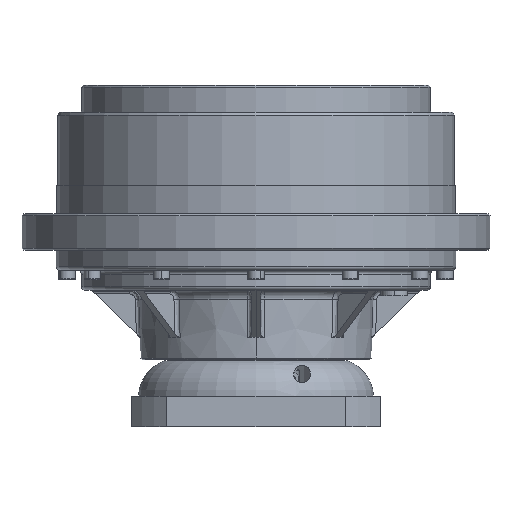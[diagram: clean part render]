
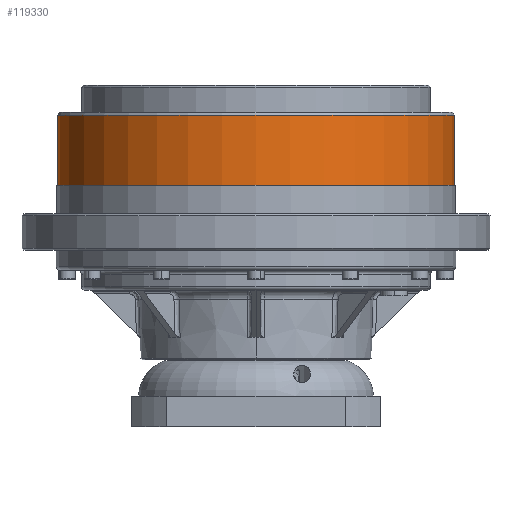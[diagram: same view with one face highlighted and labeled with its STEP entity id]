
A CAD part, front view. The second image highlights one B-rep face of the part: STEP entity #119330.
In plain terms, the highlighted cylindrical face has radius 103.5 mm (diameter 207 mm), a partial arc.
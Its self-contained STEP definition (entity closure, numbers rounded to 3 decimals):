
#6558 = VERTEX_POINT ( 'NONE', #124557 ) ;
#8247 = CARTESIAN_POINT ( 'NONE',  ( 103.5, 0., 70.5 ) ) ;
#8788 = DIRECTION ( 'NONE',  ( 0., 0., 1. ) ) ;
#9967 = ORIENTED_EDGE ( 'NONE', *, *, #30324, .T. ) ;
#11631 = EDGE_CURVE ( 'NONE', #106341, #70664, #23443, .T. ) ;
#14754 = LINE ( 'NONE', #124671, #123039 ) ;
#16553 = EDGE_CURVE ( 'NONE', #60191, #106341, #56821, .T. ) ;
#20468 = CARTESIAN_POINT ( 'NONE',  ( 0., 0., 34. ) ) ;
#23443 = CIRCLE ( 'NONE', #104758, 103.5 ) ;
#24052 = CARTESIAN_POINT ( 'NONE',  ( -103.5, 0., 34. ) ) ;
#30324 = EDGE_CURVE ( 'NONE', #6558, #70664, #14754, .T. ) ;
#32132 = FACE_OUTER_BOUND ( 'NONE', #84304, .T. ) ;
#34185 = AXIS2_PLACEMENT_3D ( 'NONE', #72515, #116949, #105962 ) ;
#42341 = CYLINDRICAL_SURFACE ( 'NONE', #70077, 103.5 ) ;
#56821 = LINE ( 'NONE', #24052, #79106 ) ;
#56837 = ORIENTED_EDGE ( 'NONE', *, *, #16553, .F. ) ;
#57737 = EDGE_CURVE ( 'NONE', #6558, #60191, #89950, .T. ) ;
#60191 = VERTEX_POINT ( 'NONE', #95721 ) ;
#70077 = AXIS2_PLACEMENT_3D ( 'NONE', #20468, #8788, #140613 ) ;
#70664 = VERTEX_POINT ( 'NONE', #8247 ) ;
#72515 = CARTESIAN_POINT ( 'NONE',  ( 0., 0., 34. ) ) ;
#79106 = VECTOR ( 'NONE', #112121, 1000. ) ;
#81000 = DIRECTION ( 'NONE',  ( 0., 0., 1. ) ) ;
#84304 = EDGE_LOOP ( 'NONE', ( #84313, #9967, #111674, #56837 ) ) ;
#84313 = ORIENTED_EDGE ( 'NONE', *, *, #57737, .F. ) ;
#89899 = CARTESIAN_POINT ( 'NONE',  ( -103.5, 0., 70.5 ) ) ;
#89950 = CIRCLE ( 'NONE', #34185, 103.5 ) ;
#95721 = CARTESIAN_POINT ( 'NONE',  ( -103.5, 0., 34. ) ) ;
#104758 = AXIS2_PLACEMENT_3D ( 'NONE', #120503, #134262, #131402 ) ;
#105962 = DIRECTION ( 'NONE',  ( -1., 0., 0. ) ) ;
#106341 = VERTEX_POINT ( 'NONE', #89899 ) ;
#111674 = ORIENTED_EDGE ( 'NONE', *, *, #11631, .F. ) ;
#112121 = DIRECTION ( 'NONE',  ( 0., 0., 1. ) ) ;
#116949 = DIRECTION ( 'NONE',  ( 0., 0., -1. ) ) ;
#119330 = ADVANCED_FACE ( 'NONE', ( #32132 ), #42341, .T. ) ;
#120503 = CARTESIAN_POINT ( 'NONE',  ( 0., 0., 70.5 ) ) ;
#123039 = VECTOR ( 'NONE', #81000, 1000. ) ;
#124557 = CARTESIAN_POINT ( 'NONE',  ( 103.5, 0., 34. ) ) ;
#124671 = CARTESIAN_POINT ( 'NONE',  ( 103.5, 0., 34. ) ) ;
#131402 = DIRECTION ( 'NONE',  ( -1., 0., 0. ) ) ;
#134262 = DIRECTION ( 'NONE',  ( 0., 0., 1. ) ) ;
#140613 = DIRECTION ( 'NONE',  ( -1., 0., 0. ) ) ;
